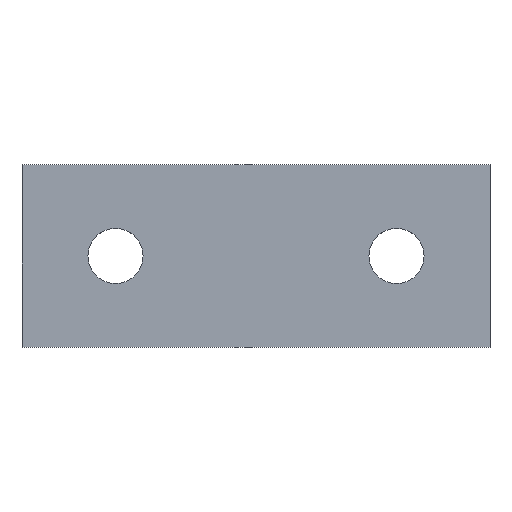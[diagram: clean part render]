
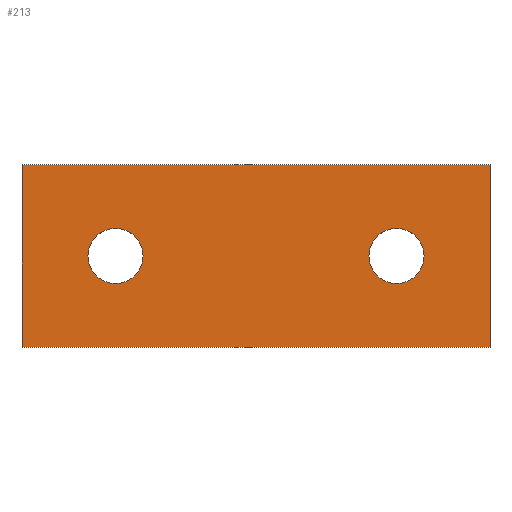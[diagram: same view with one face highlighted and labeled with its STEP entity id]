
A CAD part, top view. The second image highlights one B-rep face of the part: STEP entity #213.
In plain terms, the highlighted planar face has unit normal (0, 0, 1).
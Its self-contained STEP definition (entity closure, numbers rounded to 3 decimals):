
#24 = VERTEX_POINT('',#25);
#25 = CARTESIAN_POINT('',(-27.145,-10.6,2.));
#32 = PLANE('',#33);
#33 = AXIS2_PLACEMENT_3D('',#34,#35,#36);
#34 = CARTESIAN_POINT('',(-27.145,-10.6,-2.));
#35 = DIRECTION('',(1.,0.,0.));
#36 = DIRECTION('',(0.,0.,1.));
#44 = PLANE('',#45);
#45 = AXIS2_PLACEMENT_3D('',#46,#47,#48);
#46 = CARTESIAN_POINT('',(-27.145,-10.6,-2.));
#47 = DIRECTION('',(0.,1.,0.));
#48 = DIRECTION('',(0.,0.,1.));
#85 = VERTEX_POINT('',#86);
#86 = CARTESIAN_POINT('',(-27.145,10.6,2.));
#100 = PLANE('',#101);
#101 = AXIS2_PLACEMENT_3D('',#102,#103,#104);
#102 = CARTESIAN_POINT('',(-27.145,10.6,-2.));
#103 = DIRECTION('',(0.,1.,0.));
#104 = DIRECTION('',(0.,0.,1.));
#112 = EDGE_CURVE('',#24,#85,#113,.T.);
#113 = SURFACE_CURVE('',#114,(#118,#125),.PCURVE_S1.);
#114 = LINE('',#115,#116);
#115 = CARTESIAN_POINT('',(-27.145,-10.6,2.));
#116 = VECTOR('',#117,1.);
#117 = DIRECTION('',(0.,1.,0.));
#118 = PCURVE('',#32,#119);
#119 = DEFINITIONAL_REPRESENTATION('',(#120),#124);
#120 = LINE('',#121,#122);
#121 = CARTESIAN_POINT('',(4.,0.));
#122 = VECTOR('',#123,1.);
#123 = DIRECTION('',(0.,-1.));
#124 = ( GEOMETRIC_REPRESENTATION_CONTEXT(2) 
PARAMETRIC_REPRESENTATION_CONTEXT() REPRESENTATION_CONTEXT('2D SPACE',''
  ) );
#125 = PCURVE('',#126,#131);
#126 = PLANE('',#127);
#127 = AXIS2_PLACEMENT_3D('',#128,#129,#130);
#128 = CARTESIAN_POINT('',(-27.145,-10.6,2.));
#129 = DIRECTION('',(0.,0.,1.));
#130 = DIRECTION('',(1.,0.,0.));
#131 = DEFINITIONAL_REPRESENTATION('',(#132),#136);
#132 = LINE('',#133,#134);
#133 = CARTESIAN_POINT('',(0.,0.));
#134 = VECTOR('',#135,1.);
#135 = DIRECTION('',(0.,1.));
#136 = ( GEOMETRIC_REPRESENTATION_CONTEXT(2) 
PARAMETRIC_REPRESENTATION_CONTEXT() REPRESENTATION_CONTEXT('2D SPACE',''
  ) );
#165 = EDGE_CURVE('',#24,#166,#168,.T.);
#166 = VERTEX_POINT('',#167);
#167 = CARTESIAN_POINT('',(27.145,-10.6,2.));
#168 = SURFACE_CURVE('',#169,(#173,#180),.PCURVE_S1.);
#169 = LINE('',#170,#171);
#170 = CARTESIAN_POINT('',(-27.145,-10.6,2.));
#171 = VECTOR('',#172,1.);
#172 = DIRECTION('',(1.,0.,0.));
#173 = PCURVE('',#44,#174);
#174 = DEFINITIONAL_REPRESENTATION('',(#175),#179);
#175 = LINE('',#176,#177);
#176 = CARTESIAN_POINT('',(4.,0.));
#177 = VECTOR('',#178,1.);
#178 = DIRECTION('',(0.,1.));
#179 = ( GEOMETRIC_REPRESENTATION_CONTEXT(2) 
PARAMETRIC_REPRESENTATION_CONTEXT() REPRESENTATION_CONTEXT('2D SPACE',''
  ) );
#180 = PCURVE('',#126,#181);
#181 = DEFINITIONAL_REPRESENTATION('',(#182),#186);
#182 = LINE('',#183,#184);
#183 = CARTESIAN_POINT('',(0.,0.));
#184 = VECTOR('',#185,1.);
#185 = DIRECTION('',(1.,0.));
#186 = ( GEOMETRIC_REPRESENTATION_CONTEXT(2) 
PARAMETRIC_REPRESENTATION_CONTEXT() REPRESENTATION_CONTEXT('2D SPACE',''
  ) );
#202 = PLANE('',#203);
#203 = AXIS2_PLACEMENT_3D('',#204,#205,#206);
#204 = CARTESIAN_POINT('',(27.145,-10.6,-2.));
#205 = DIRECTION('',(1.,0.,0.));
#206 = DIRECTION('',(0.,0.,1.));
#213 = ADVANCED_FACE('',(#214,#262,#297),#126,.T.);
#214 = FACE_BOUND('',#215,.T.);
#215 = EDGE_LOOP('',(#216,#217,#218,#241));
#216 = ORIENTED_EDGE('',*,*,#112,.F.);
#217 = ORIENTED_EDGE('',*,*,#165,.T.);
#218 = ORIENTED_EDGE('',*,*,#219,.T.);
#219 = EDGE_CURVE('',#166,#220,#222,.T.);
#220 = VERTEX_POINT('',#221);
#221 = CARTESIAN_POINT('',(27.145,10.6,2.));
#222 = SURFACE_CURVE('',#223,(#227,#234),.PCURVE_S1.);
#223 = LINE('',#224,#225);
#224 = CARTESIAN_POINT('',(27.145,-10.6,2.));
#225 = VECTOR('',#226,1.);
#226 = DIRECTION('',(0.,1.,0.));
#227 = PCURVE('',#126,#228);
#228 = DEFINITIONAL_REPRESENTATION('',(#229),#233);
#229 = LINE('',#230,#231);
#230 = CARTESIAN_POINT('',(54.29,0.));
#231 = VECTOR('',#232,1.);
#232 = DIRECTION('',(0.,1.));
#233 = ( GEOMETRIC_REPRESENTATION_CONTEXT(2) 
PARAMETRIC_REPRESENTATION_CONTEXT() REPRESENTATION_CONTEXT('2D SPACE',''
  ) );
#234 = PCURVE('',#202,#235);
#235 = DEFINITIONAL_REPRESENTATION('',(#236),#240);
#236 = LINE('',#237,#238);
#237 = CARTESIAN_POINT('',(4.,0.));
#238 = VECTOR('',#239,1.);
#239 = DIRECTION('',(0.,-1.));
#240 = ( GEOMETRIC_REPRESENTATION_CONTEXT(2) 
PARAMETRIC_REPRESENTATION_CONTEXT() REPRESENTATION_CONTEXT('2D SPACE',''
  ) );
#241 = ORIENTED_EDGE('',*,*,#242,.F.);
#242 = EDGE_CURVE('',#85,#220,#243,.T.);
#243 = SURFACE_CURVE('',#244,(#248,#255),.PCURVE_S1.);
#244 = LINE('',#245,#246);
#245 = CARTESIAN_POINT('',(-27.145,10.6,2.));
#246 = VECTOR('',#247,1.);
#247 = DIRECTION('',(1.,0.,0.));
#248 = PCURVE('',#126,#249);
#249 = DEFINITIONAL_REPRESENTATION('',(#250),#254);
#250 = LINE('',#251,#252);
#251 = CARTESIAN_POINT('',(0.,21.2));
#252 = VECTOR('',#253,1.);
#253 = DIRECTION('',(1.,0.));
#254 = ( GEOMETRIC_REPRESENTATION_CONTEXT(2) 
PARAMETRIC_REPRESENTATION_CONTEXT() REPRESENTATION_CONTEXT('2D SPACE',''
  ) );
#255 = PCURVE('',#100,#256);
#256 = DEFINITIONAL_REPRESENTATION('',(#257),#261);
#257 = LINE('',#258,#259);
#258 = CARTESIAN_POINT('',(4.,0.));
#259 = VECTOR('',#260,1.);
#260 = DIRECTION('',(0.,1.));
#261 = ( GEOMETRIC_REPRESENTATION_CONTEXT(2) 
PARAMETRIC_REPRESENTATION_CONTEXT() REPRESENTATION_CONTEXT('2D SPACE',''
  ) );
#262 = FACE_BOUND('',#263,.T.);
#263 = EDGE_LOOP('',(#264));
#264 = ORIENTED_EDGE('',*,*,#265,.T.);
#265 = EDGE_CURVE('',#266,#266,#268,.T.);
#266 = VERTEX_POINT('',#267);
#267 = CARTESIAN_POINT('',(13.1,0.,2.));
#268 = SURFACE_CURVE('',#269,(#274,#285),.PCURVE_S1.);
#269 = CIRCLE('',#270,3.2);
#270 = AXIS2_PLACEMENT_3D('',#271,#272,#273);
#271 = CARTESIAN_POINT('',(16.3,0.,2.));
#272 = DIRECTION('',(0.,0.,-1.));
#273 = DIRECTION('',(-1.,0.,0.));
#274 = PCURVE('',#126,#275);
#275 = DEFINITIONAL_REPRESENTATION('',(#276),#284);
#276 = ( BOUNDED_CURVE() B_SPLINE_CURVE(2,(#277,#278,#279,#280,#281,#282
,#283),.UNSPECIFIED.,.T.,.F.) B_SPLINE_CURVE_WITH_KNOTS((1,2,2,2,2,1),(
    -2.094,0.,2.094,4.189,6.283,
8.378),.UNSPECIFIED.) CURVE() GEOMETRIC_REPRESENTATION_ITEM() 
RATIONAL_B_SPLINE_CURVE((1.,0.5,1.,0.5,1.,0.5,1.)) REPRESENTATION_ITEM(
  '') );
#277 = CARTESIAN_POINT('',(40.245,10.6));
#278 = CARTESIAN_POINT('',(40.245,16.143));
#279 = CARTESIAN_POINT('',(45.045,13.371));
#280 = CARTESIAN_POINT('',(49.845,10.6));
#281 = CARTESIAN_POINT('',(45.045,7.829));
#282 = CARTESIAN_POINT('',(40.245,5.057));
#283 = CARTESIAN_POINT('',(40.245,10.6));
#284 = ( GEOMETRIC_REPRESENTATION_CONTEXT(2) 
PARAMETRIC_REPRESENTATION_CONTEXT() REPRESENTATION_CONTEXT('2D SPACE',''
  ) );
#285 = PCURVE('',#286,#291);
#286 = CYLINDRICAL_SURFACE('',#287,3.2);
#287 = AXIS2_PLACEMENT_3D('',#288,#289,#290);
#288 = CARTESIAN_POINT('',(16.3,0.,2.));
#289 = DIRECTION('',(0.,0.,-1.));
#290 = DIRECTION('',(-1.,0.,0.));
#291 = DEFINITIONAL_REPRESENTATION('',(#292),#296);
#292 = LINE('',#293,#294);
#293 = CARTESIAN_POINT('',(0.,0.));
#294 = VECTOR('',#295,1.);
#295 = DIRECTION('',(1.,0.));
#296 = ( GEOMETRIC_REPRESENTATION_CONTEXT(2) 
PARAMETRIC_REPRESENTATION_CONTEXT() REPRESENTATION_CONTEXT('2D SPACE',''
  ) );
#297 = FACE_BOUND('',#298,.T.);
#298 = EDGE_LOOP('',(#299));
#299 = ORIENTED_EDGE('',*,*,#300,.T.);
#300 = EDGE_CURVE('',#301,#301,#303,.T.);
#301 = VERTEX_POINT('',#302);
#302 = CARTESIAN_POINT('',(-13.1,0.,2.));
#303 = SURFACE_CURVE('',#304,(#309,#320),.PCURVE_S1.);
#304 = CIRCLE('',#305,3.2);
#305 = AXIS2_PLACEMENT_3D('',#306,#307,#308);
#306 = CARTESIAN_POINT('',(-16.3,0.,2.));
#307 = DIRECTION('',(0.,-0.,-1.));
#308 = DIRECTION('',(1.,0.,0.));
#309 = PCURVE('',#126,#310);
#310 = DEFINITIONAL_REPRESENTATION('',(#311),#319);
#311 = ( BOUNDED_CURVE() B_SPLINE_CURVE(2,(#312,#313,#314,#315,#316,#317
,#318),.UNSPECIFIED.,.T.,.F.) B_SPLINE_CURVE_WITH_KNOTS((1,2,2,2,2,1),(
    -2.094,0.,2.094,4.189,6.283,
8.378),.UNSPECIFIED.) CURVE() GEOMETRIC_REPRESENTATION_ITEM() 
RATIONAL_B_SPLINE_CURVE((1.,0.5,1.,0.5,1.,0.5,1.)) REPRESENTATION_ITEM(
  '') );
#312 = CARTESIAN_POINT('',(14.045,10.6));
#313 = CARTESIAN_POINT('',(14.045,5.057));
#314 = CARTESIAN_POINT('',(9.245,7.829));
#315 = CARTESIAN_POINT('',(4.445,10.6));
#316 = CARTESIAN_POINT('',(9.245,13.371));
#317 = CARTESIAN_POINT('',(14.045,16.143));
#318 = CARTESIAN_POINT('',(14.045,10.6));
#319 = ( GEOMETRIC_REPRESENTATION_CONTEXT(2) 
PARAMETRIC_REPRESENTATION_CONTEXT() REPRESENTATION_CONTEXT('2D SPACE',''
  ) );
#320 = PCURVE('',#321,#326);
#321 = CYLINDRICAL_SURFACE('',#322,3.2);
#322 = AXIS2_PLACEMENT_3D('',#323,#324,#325);
#323 = CARTESIAN_POINT('',(-16.3,0.,2.));
#324 = DIRECTION('',(-0.,0.,-1.));
#325 = DIRECTION('',(1.,0.,0.));
#326 = DEFINITIONAL_REPRESENTATION('',(#327),#331);
#327 = LINE('',#328,#329);
#328 = CARTESIAN_POINT('',(0.,0.));
#329 = VECTOR('',#330,1.);
#330 = DIRECTION('',(1.,0.));
#331 = ( GEOMETRIC_REPRESENTATION_CONTEXT(2) 
PARAMETRIC_REPRESENTATION_CONTEXT() REPRESENTATION_CONTEXT('2D SPACE',''
  ) );
